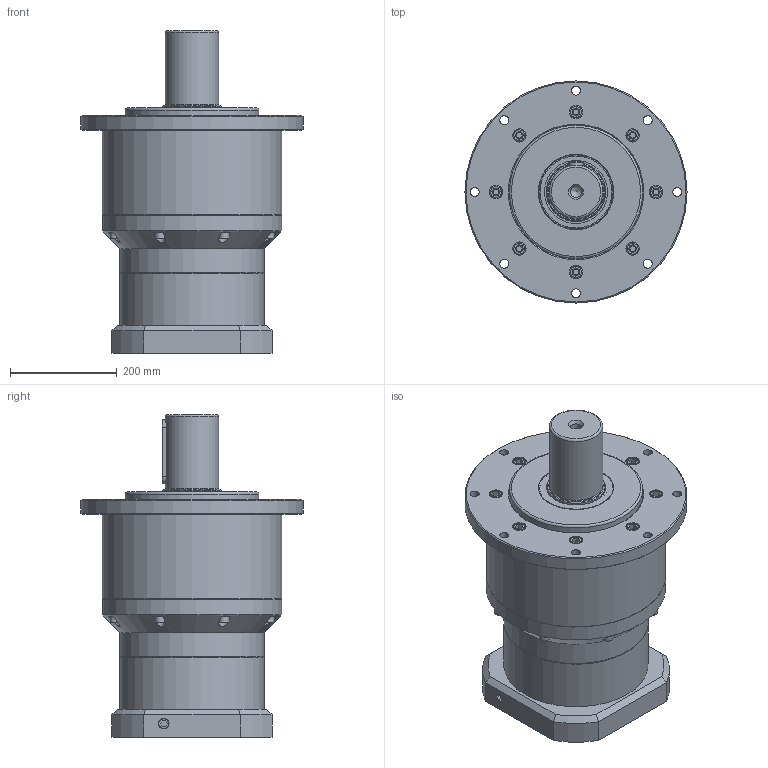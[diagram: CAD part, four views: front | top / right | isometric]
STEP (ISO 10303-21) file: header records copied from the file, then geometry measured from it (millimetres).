
FILE_DESCRIPTION((''),'2;1');
FILE_NAME('D:\WORK\감속기 카다로그 도면\ATG Reducer(홈페이지)\KSB\KSB-330-2.stp','2015-03-24T10:31:07',('young'),(''),'Autodesk Inventor 2012','Autodesk Inventor 2012','');
FILE_SCHEMA(('AUTOMOTIVE_DESIGN { 1 0 10303 214 1 1 1 1 }'));
Length unit declared in the file: millimetre
Products named in the file (1): KSB-330-2
Bounding box: 416 x 416 x 605 mm (x, y, z)
Volume: 15719305.2 mm3; surface area: 1871202.7 mm2
Topology: 38 solids, 38 shells, 990 faces, 2164 edges, 1347 vertices
Faces by surface type: plane 548, cylinder 238, cone 166, torus 38
Full cylindrical faces by diameter (mm): 8.5 x8, 8.6 x8, 10 x8, 10.2 x9, 11 x16, 12 x9, 13 x9, 14 x12, 16 x16, 17 x24, 17.856 x2, 18 x9, 19 x2, 21 x1, 24 x8, 25 x8, 36 x1, 66 x1, 80.6 x1, 84.7 x1, 85 x1, 93 x1, 100 x1, 109.8 x1, 110 x2, 111 x1, 115 x2, 118 x1, 136 x1, 140 x2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
Entity records: 25235 total; most frequent: CARTESIAN_POINT 4690, DIRECTION 4402, ORIENTED_EDGE 3448, AXIS2_PLACEMENT_3D 1782, EDGE_CURVE 1724, EDGE_LOOP 1550, VERTEX_POINT 1266, FACE_OUTER_BOUND 990
